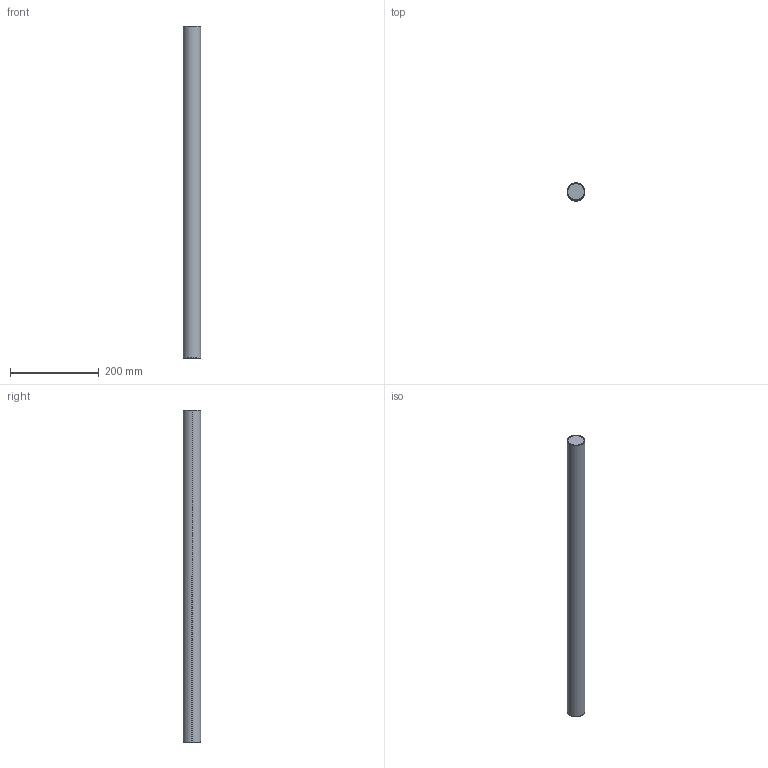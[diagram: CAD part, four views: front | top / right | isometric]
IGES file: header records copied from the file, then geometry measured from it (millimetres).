
Start section: SolidWorks IGES file using analytic representation for surfaces
Global section: file name: C:\Users\anna.bielnik\Desktop\modele 3D tymczasowe\FOURTY\FOURTY plafony\FOURTY M PLAFON\M.IGS; native system: SolidWorks 2023; preprocessor: SolidWorks 2023; author: anna.bielnik; date: 230629.110415; units: millimetre
Bounding box: 40 x 40 x 750 mm (x, y, z)
Surface area: 187357.5 mm2 (no closed solid volume)
Topology: 0 solids, 0 shells, 18 faces, 592 edges, 592 vertices
Faces by surface type: revolution 10, bspline 8
